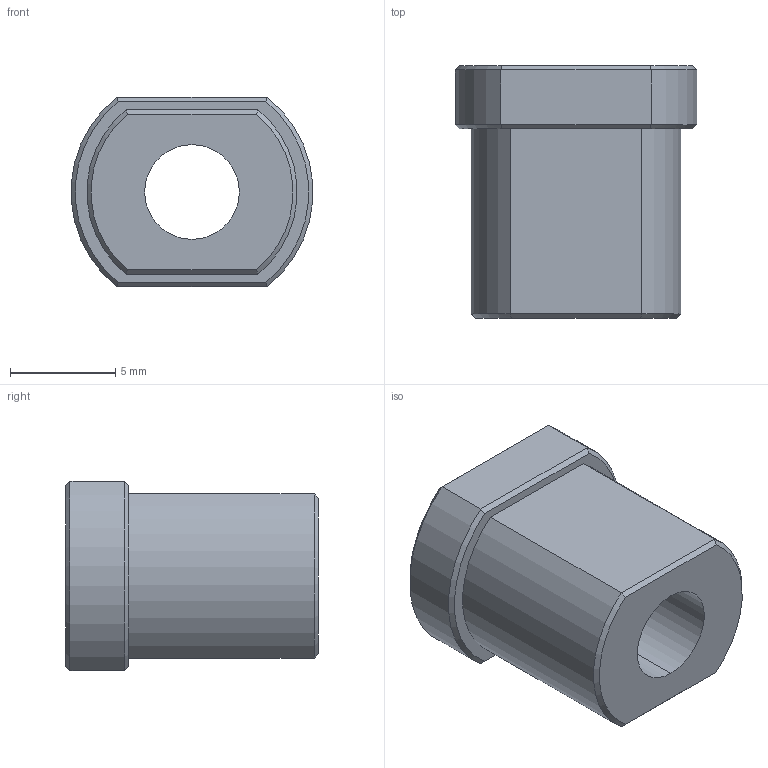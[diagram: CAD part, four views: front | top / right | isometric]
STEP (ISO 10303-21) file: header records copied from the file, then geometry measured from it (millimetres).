
FILE_DESCRIPTION (( 'STEP AP203' ), '1' );
FILE_NAME ('XG11-001-4.STEP', '2025-06-24T01:13:02', ( '微软用户' ), ( '微软中国' ), 'SwSTEP 2.0', 'SolidWorks 2024', '' );
FILE_SCHEMA (( 'CONFIG_CONTROL_DESIGN' ));
Length unit declared in the file: millimetre
Products named in the file (1): XG11-001-4
Bounding box: 11.46 x 12 x 9 mm (x, y, z)
Volume: 704.4 mm3; surface area: 687.9 mm2
Topology: 1 solids, 1 shells, 25 faces, 54 edges, 32 vertices
Faces by surface type: plane 13, cylinder 6, cone 6
Entity records: 763 total; most frequent: CARTESIAN_POINT 148, DIRECTION 112, ORIENTED_EDGE 108, EDGE_CURVE 54, AXIS2_PLACEMENT_3D 44, VERTEX_POINT 32, EDGE_LOOP 28, ADVANCED_FACE 25
